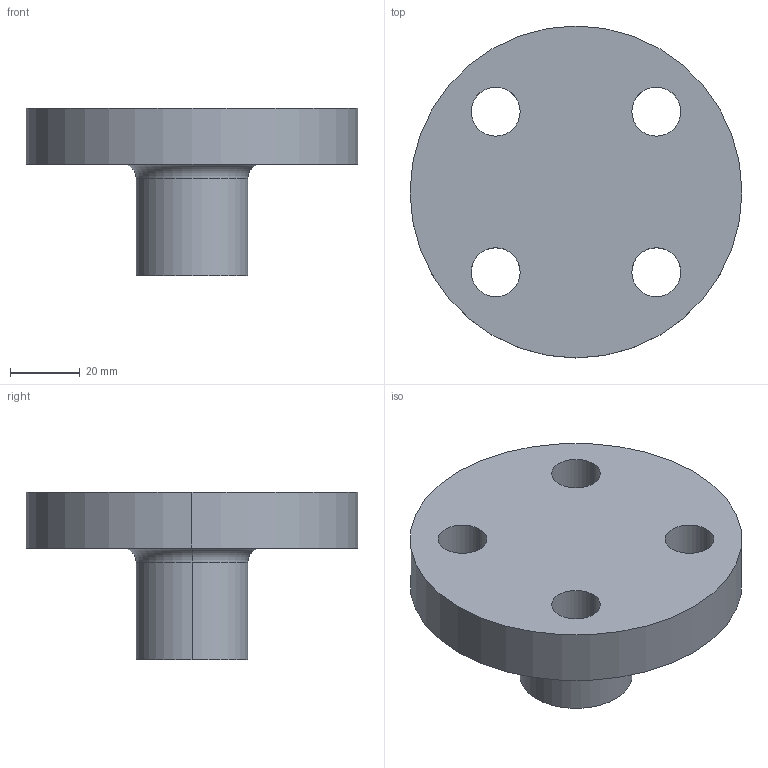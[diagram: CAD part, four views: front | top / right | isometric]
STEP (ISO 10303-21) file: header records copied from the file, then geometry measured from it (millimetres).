
FILE_DESCRIPTION (( 'STEP AP214' ), '1' );
FILE_NAME ('PN40 DN15 Type 21(i) - Type A Face.STEP', '2018-12-29T14:30:24', ( '' ), ( '' ), 'SwSTEP 2.0', 'SolidWorks 2019', '' );
FILE_SCHEMA (( 'AUTOMOTIVE_DESIGN' ));
Length unit declared in the file: millimetre
Products named in the file (1): PN40 DN15 Type 21(i) - Type A Face
Bounding box: 95 x 95 x 48 mm (x, y, z)
Volume: 129659.8 mm3; surface area: 23586.5 mm2
Topology: 1 solids, 1 shells, 17 faces, 40 edges, 26 vertices
Faces by surface type: cylinder 12, plane 3, torus 2
Entity records: 556 total; most frequent: DIRECTION 104, CARTESIAN_POINT 84, ORIENTED_EDGE 80, AXIS2_PLACEMENT_3D 46, EDGE_CURVE 40, CIRCLE 28, VERTEX_POINT 26, EDGE_LOOP 26
